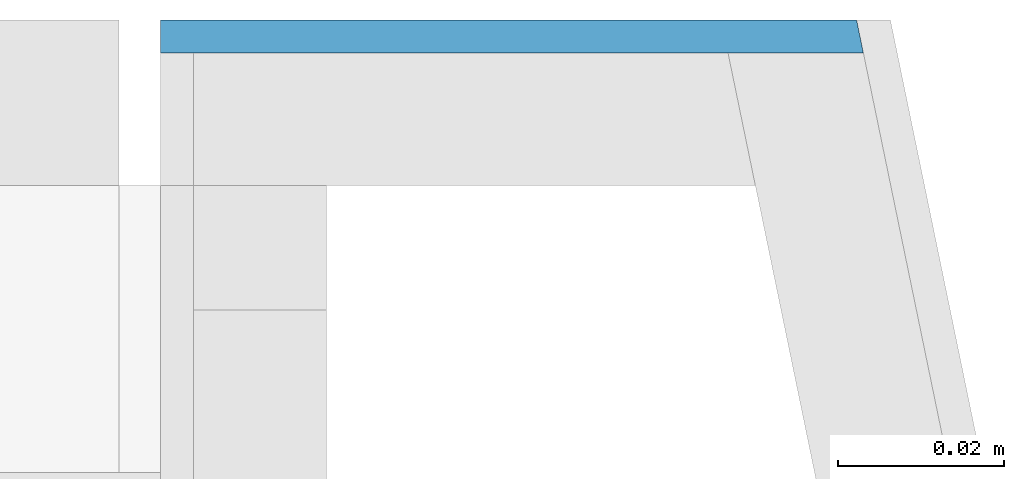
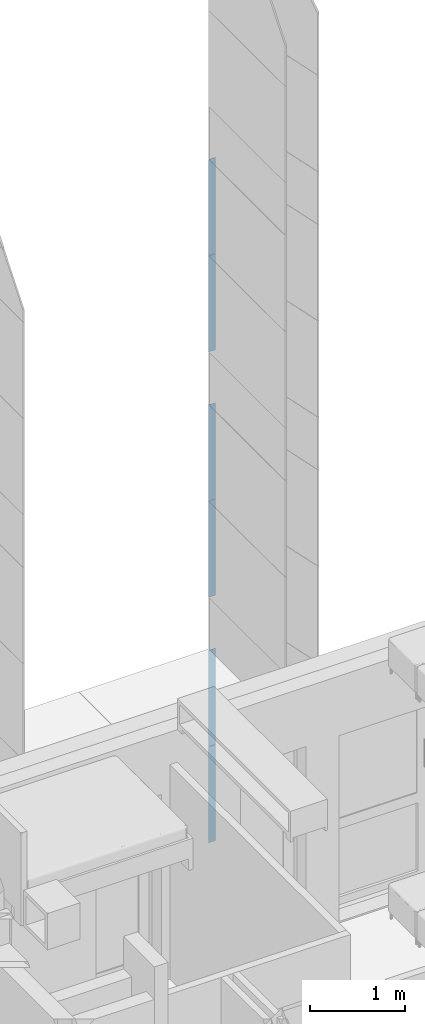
# One storey, part 25 of 125: 6 building element parts, 1 element without a shape of its own.
"""IFC2X3 building model written with IfcOpenShell, lengths in millimetres."""

from ifc_helpers import new_model, entity, si_unit, converted_unit, direction, frame, origin, place, context, subcontext, project, spatial, polyline, outline, extrude, material, type_object, element, aggregate, save


model = new_model("IFC2X3")

# Units and contexts
model_context = context("Model", 3, precision=0.01, world=origin(), true_north=direction((6.123233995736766e-17, 1.0)))
plan_context = context("Plan", 3, precision=0.01, world=origin(), true_north=direction((6.123233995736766e-17, 1.0)))
body_context = subcontext(model_context, "Body", "Model", "MODEL_VIEW")
ifc_project = project(units=[si_unit("LENGTHUNIT", "METRE", prefix="MILLI"), converted_unit("PLANEANGLEUNIT", "DEGREE", entity("IfcPlaneAngleMeasure", 0.017453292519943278), si_unit("PLANEANGLEUNIT", "RADIAN"), dimensions=[0, 0, 0, 0, 0, 0, 0]), si_unit("AREAUNIT", "SQUARE_METRE")], contexts=[model_context, plan_context])

# Site, building, storey
site_placement = place(None, origin())
site = spatial("IfcSite", under=ifc_project, at=site_placement, Name="Default", CompositionType="ELEMENT")
building_placement = place(site_placement, origin())
building = spatial("IfcBuilding", under=site, at=building_placement, CompositionType="ELEMENT")
storey_placement = place(building_placement, frame((0.0, 0.0, 3125.0)))
storey = spatial("IfcBuildingStorey", under=building, at=storey_placement, Name="2K", CompositionType="ELEMENT", Elevation=3125.0)

# Wall, building element parts
wall_type = type_object("IfcWallType", Name="Basic Wall:VS-komposiit", PredefinedType="STANDARD")
wall_placement = place(storey_placement, frame((8286.775755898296, 17442.0, -1010.0), z_axis=(0.0, 0.0, 1.0), x_axis=(-1.0, 0.0, 0.0)))
wall = element("IfcWall", 1, at=wall_placement, inside=storey, type_object=wall_type, Name="Basic Wall:VS-komposiit", ObjectType="Basic Wall:VS-komposiit")
ifc_material = material(Name="_K. Välisviimistlus. Alumiinium-komposiitplaat")
building_element_part_1_placement = place(wall_placement, origin())
building_element_part_1 = element("IfcBuildingElementPart", 2, at=building_element_part_1_placement, material=ifc_material, Name="Part", context=body_context, shape_type="SweptSolid", body=[
    extrude(outline(polyline([(-2.0, -42.20013519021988), (2.0, -42.20013519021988), (2.0, 42.61260185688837), (-2.0, 41.78766852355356), (-2.0, -42.20013519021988)])), frame((29.57562070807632, -8.0, 927.4999999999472), z_axis=(0.0, 0.0, 1.0), x_axis=(0.0, 1.0, 0.0)), (0.0, 0.0, 1.0), 1240.0000000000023),
])
building_element_part_2_placement = place(wall_placement, origin())
building_element_part_2 = element("IfcBuildingElementPart", 3, at=building_element_part_2_placement, material=ifc_material, Name="Part", context=body_context, shape_type="SweptSolid", body=[
    extrude(outline(polyline([(-2.0, -42.20013519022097), (2.0, -42.20013519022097), (2.0, 42.61260185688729), (-2.0, 41.787668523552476), (-2.0, -42.20013519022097)])), frame((29.575620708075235, -8.0, 4097.499999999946), z_axis=(0.0, 0.0, 1.0), x_axis=(0.0, 1.0, 0.0)), (0.0, 0.0, 1.0), 1240.0000000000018),
])
building_element_part_3_placement = place(wall_placement, origin())
building_element_part_3 = element("IfcBuildingElementPart", 4, at=building_element_part_3_placement, material=ifc_material, Name="Part", context=body_context, shape_type="SweptSolid", body=[
    extrude(outline(polyline([(-2.0, -42.20013519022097), (2.0, -42.20013519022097), (2.0, 42.61260185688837), (-2.0, 41.787668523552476), (-2.0, -42.20013519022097)])), frame((29.575620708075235, -8.0, 2172.4999999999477), z_axis=(0.0, 0.0, 1.0), x_axis=(0.0, 1.0, 0.0)), (0.0, 0.0, 1.0), 1240.0000000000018),
])
building_element_part_4_placement = place(wall_placement, origin())
building_element_part_4 = element("IfcBuildingElementPart", 5, at=building_element_part_4_placement, material=ifc_material, Name="Part", context=body_context, shape_type="SweptSolid", body=[
    extrude(outline(polyline([(-2.0, -42.20013519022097), (2.0, -42.20013519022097), (2.0, 42.61260185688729), (-2.0, 41.787668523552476), (-2.0, -42.20013519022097)])), frame((29.575620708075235, -8.0, 5342.499999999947), z_axis=(0.0, 0.0, 1.0), x_axis=(0.0, 1.0, 0.0)), (0.0, 0.0, 1.0), 1240.0000000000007),
])
building_element_part_5_placement = place(wall_placement, origin())
building_element_part_5 = element("IfcBuildingElementPart", 6, at=building_element_part_5_placement, material=ifc_material, Name="Part", context=body_context, shape_type="SweptSolid", body=[
    extrude(outline(polyline([(-2.0, -42.20013519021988), (2.0, -42.20013519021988), (2.0, 42.61260185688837), (-2.0, 41.78766852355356), (-2.0, -42.20013519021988)])), frame((29.57562070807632, -8.0, 8512.499999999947), z_axis=(0.0, 0.0, 1.0), x_axis=(0.0, 1.0, 0.0)), (0.0, 0.0, 1.0), 1240.0000000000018),
])
building_element_part_6_placement = place(wall_placement, origin())
building_element_part_6 = element("IfcBuildingElementPart", 7, at=building_element_part_6_placement, material=ifc_material, Name="Part", context=body_context, shape_type="SweptSolid", body=[
    extrude(outline(polyline([(-2.0, -42.20013519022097), (2.0, -42.20013519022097), (2.0, 42.61260185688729), (-2.0, 41.787668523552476), (-2.0, -42.20013519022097)])), frame((29.575620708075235, -8.0, 7267.499999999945), z_axis=(0.0, 0.0, 1.0), x_axis=(0.0, 1.0, 0.0)), (0.0, 0.0, 1.0), 1240.000000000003),
])
aggregate(wall, [building_element_part_1, building_element_part_2, building_element_part_3, building_element_part_4, building_element_part_5, building_element_part_6])

save(model, "model.ifc")
